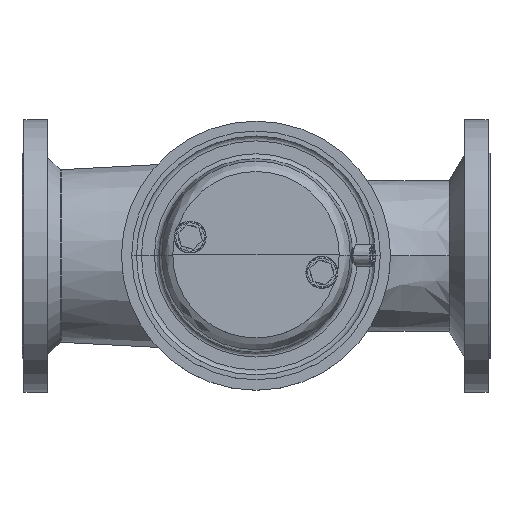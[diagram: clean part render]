
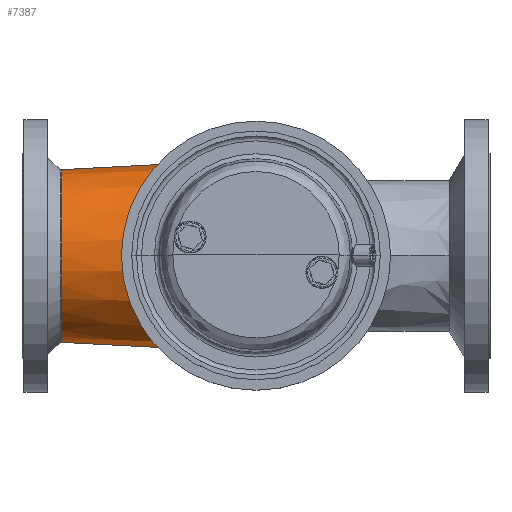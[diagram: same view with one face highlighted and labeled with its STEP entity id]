
A CAD part, top view. The second image highlights one B-rep face of the part: STEP entity #7387.
In plain terms, the highlighted conical face has half-angle 3.005 degrees and reference radius 16.002 mm.
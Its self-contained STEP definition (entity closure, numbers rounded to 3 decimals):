
#258=ELLIPSE('',#8044,178.688,88.974);
#261=B_SPLINE_CURVE_WITH_KNOTS('',3,(#11590,#11591,#11592,#11593,#11594,
#11595),.UNSPECIFIED.,.F.,.F.,(4,2,4),(-6.112,-3.061,
0.),.UNSPECIFIED.);
#262=B_SPLINE_CURVE_WITH_KNOTS('',3,(#11598,#11599,#11600,#11601,#11602,
#11603),.UNSPECIFIED.,.F.,.F.,(4,2,4),(-6.138,-3.064,
0.),.UNSPECIFIED.);
#292=CONICAL_SURFACE('',#8043,16.002,0.052);
#394=LINE('',#11586,#750);
#395=LINE('',#11587,#751);
#750=VECTOR('',#9255,304.8);
#751=VECTOR('',#9256,304.8);
#1295=FACE_OUTER_BOUND('',#1849,.T.);
#1849=EDGE_LOOP('',(#4834,#4835,#4836,#4837,#4838,#4839,#4840,#4841));
#2405=CIRCLE('',#8037,99.);
#2406=CIRCLE('',#8038,99.);
#2407=CIRCLE('',#8040,88.5);
#3055=VERTEX_POINT('',#11548);
#3056=VERTEX_POINT('',#11549);
#3057=VERTEX_POINT('',#11551);
#3059=VERTEX_POINT('',#11566);
#3060=VERTEX_POINT('',#11581);
#3061=VERTEX_POINT('',#11582);
#3062=VERTEX_POINT('',#11589);
#3063=VERTEX_POINT('',#11596);
#3660=EDGE_CURVE('',#3056,#3057,#2405,.T.);
#3663=EDGE_CURVE('',#3059,#3055,#2406,.T.);
#3664=EDGE_CURVE('',#3060,#3061,#2407,.T.);
#3666=EDGE_CURVE('',#3055,#3060,#394,.T.);
#3667=EDGE_CURVE('',#3061,#3056,#395,.T.);
#3668=EDGE_CURVE('',#3059,#3062,#261,.T.);
#3669=EDGE_CURVE('',#3062,#3063,#258,.T.);
#3670=EDGE_CURVE('',#3063,#3057,#262,.T.);
#4834=ORIENTED_EDGE('',*,*,#3664,.F.);
#4835=ORIENTED_EDGE('',*,*,#3666,.F.);
#4836=ORIENTED_EDGE('',*,*,#3663,.F.);
#4837=ORIENTED_EDGE('',*,*,#3668,.T.);
#4838=ORIENTED_EDGE('',*,*,#3669,.T.);
#4839=ORIENTED_EDGE('',*,*,#3670,.T.);
#4840=ORIENTED_EDGE('',*,*,#3660,.F.);
#4841=ORIENTED_EDGE('',*,*,#3667,.F.);
#7387=ADVANCED_FACE('',(#1295),#292,.T.);
#8037=AXIS2_PLACEMENT_3D('',#11552,#9243,#9244);
#8038=AXIS2_PLACEMENT_3D('',#11579,#9245,#9246);
#8040=AXIS2_PLACEMENT_3D('',#11583,#9249,#9250);
#8043=AXIS2_PLACEMENT_3D('',#11588,#9257,#9258);
#8044=AXIS2_PLACEMENT_3D('',#11597,#9259,#9260);
#9243=DIRECTION('center_axis',(1.,0.,0.));
#9244=DIRECTION('ref_axis',(0.,1.,0.));
#9245=DIRECTION('center_axis',(1.,0.,0.));
#9246=DIRECTION('ref_axis',(0.,1.,0.));
#9249=DIRECTION('center_axis',(-1.,0.,0.));
#9250=DIRECTION('ref_axis',(0.,1.,0.));
#9255=DIRECTION('',(-0.999,0.052,0.));
#9256=DIRECTION('',(0.999,0.052,0.));
#9257=DIRECTION('center_axis',(1.,0.,0.));
#9258=DIRECTION('ref_axis',(0.,1.,0.));
#9259=DIRECTION('center_axis',(-0.5,0.,0.866));
#9260=DIRECTION('ref_axis',(0.866,0.,0.5));
#11548=CARTESIAN_POINT('',(0.,-99.,0.));
#11549=CARTESIAN_POINT('',(0.,99.,0.));
#11551=CARTESIAN_POINT('',(0.,72.704,67.195));
#11552=CARTESIAN_POINT('Origin',(0.,0.,0.));
#11566=CARTESIAN_POINT('',(0.,-72.704,67.195));
#11579=CARTESIAN_POINT('Origin',(0.,0.,0.));
#11581=CARTESIAN_POINT('',(-200.,-88.5,0.));
#11582=CARTESIAN_POINT('',(-200.,88.5,0.));
#11583=CARTESIAN_POINT('Origin',(-200.,0.,
0.));
#11586=CARTESIAN_POINT('',(0.,-99.,0.));
#11587=CARTESIAN_POINT('',(-200.,88.5,0.));
#11588=CARTESIAN_POINT('Origin',(-1580.914,0.,
0.));
#11589=CARTESIAN_POINT('',(-53.05,-47.474,83.687));
#11590=CARTESIAN_POINT('Ctrl Pts',(0.,-72.704,
67.195));
#11591=CARTESIAN_POINT('Ctrl Pts',(-9.768,-70.331,69.006));
#11592=CARTESIAN_POINT('Ctrl Pts',(-19.332,-67.104,
71.575));
#11593=CARTESIAN_POINT('Ctrl Pts',(-37.147,-58.872,
77.316));
#11594=CARTESIAN_POINT('Ctrl Pts',(-45.635,-53.752,
80.573));
#11595=CARTESIAN_POINT('Ctrl Pts',(-53.05,-47.474,
83.687));
#11596=CARTESIAN_POINT('',(-53.05,47.474,83.687));
#11597=CARTESIAN_POINT('Origin',(-183.928,0.,
8.124));
#11598=CARTESIAN_POINT('Ctrl Pts',(-53.05,47.474,83.687));
#11599=CARTESIAN_POINT('Ctrl Pts',(-45.635,53.752,80.573));
#11600=CARTESIAN_POINT('Ctrl Pts',(-37.147,58.872,77.316));
#11601=CARTESIAN_POINT('Ctrl Pts',(-19.332,67.104,71.575));
#11602=CARTESIAN_POINT('Ctrl Pts',(-9.768,70.331,69.006));
#11603=CARTESIAN_POINT('Ctrl Pts',(0.,72.704,
67.195));
